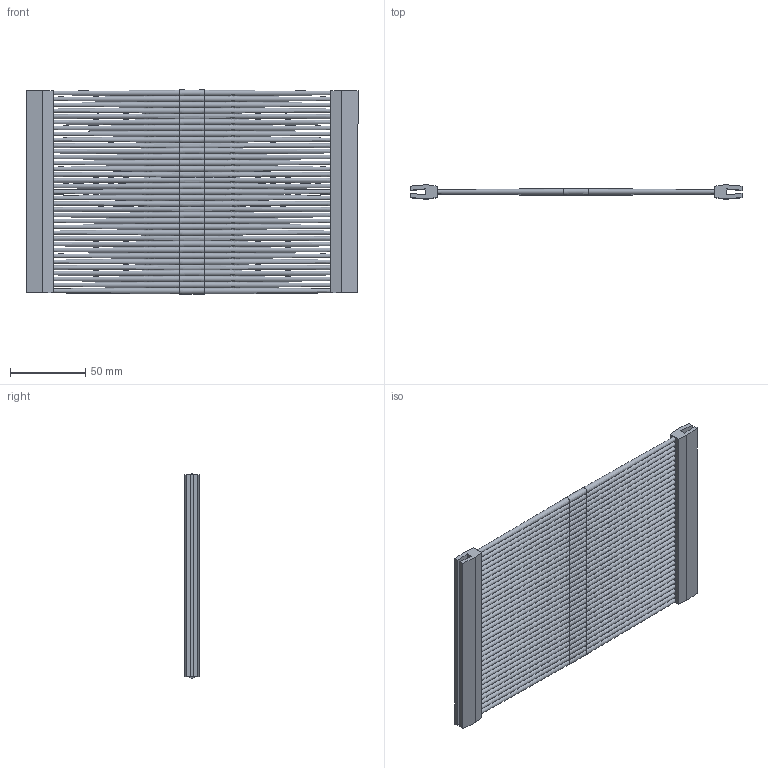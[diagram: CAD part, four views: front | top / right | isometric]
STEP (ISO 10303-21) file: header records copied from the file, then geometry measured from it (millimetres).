
FILE_DESCRIPTION(('Open CASCADE Model'),'2;1');
FILE_NAME('Open CASCADE Shape Model','2025-02-21T16:18:37',('Author'),( 'Open CASCADE'),'Open CASCADE STEP processor 7.8','Open CASCADE 7.8' ,'Unknown');
FILE_SCHEMA(('AUTOMOTIVE_DESIGN { 1 0 10303 214 1 1 1 1 }'));
Length unit declared in the file: millimetre
Products named in the file (2): Compound1; Solid1
Assembly tree (2 placements, depth 2):
  Compound1
    Solid1  x2
Bounding box: 220 x 9.5 x 135.4 mm (x, y, z)
Volume: 107362.2 mm3; surface area: 93035.1 mm2
Topology: 2 solids, 2 shells, 96 faces, 480 edges, 318 vertices
Faces by surface type: cone 70, plane 26
Entity records: 4062 total; most frequent: CARTESIAN_POINT 2015, ORIENTED_EDGE 480, DIRECTION 412, EDGE_CURVE 240, AXIS2_PLACEMENT_3D 190, VERTEX_POINT 159, CIRCLE 139, FACE_BOUND 83
